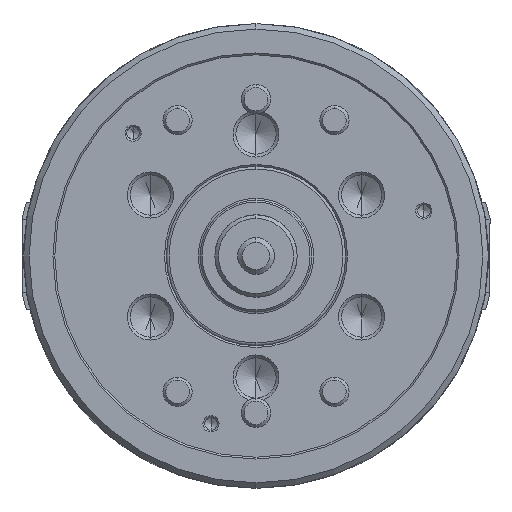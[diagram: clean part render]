
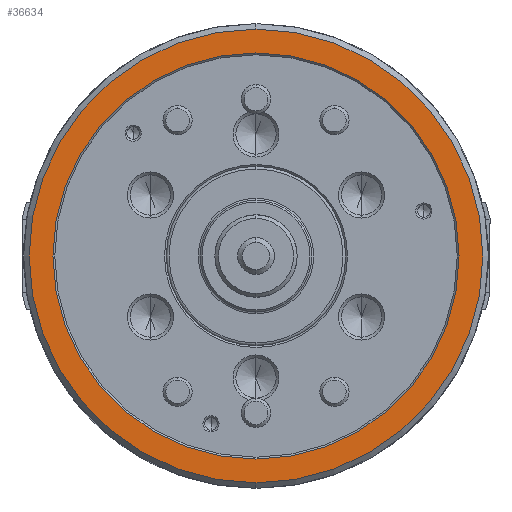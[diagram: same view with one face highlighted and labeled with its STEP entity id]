
A CAD part, left-side view. The second image highlights one B-rep face of the part: STEP entity #36634.
In plain terms, the highlighted planar face has unit normal (-1, 0, 0) as drawn and (0, 0, -1) by its records, which use the part's own axes.
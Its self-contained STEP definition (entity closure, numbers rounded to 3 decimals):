
#293 = AXIS2_PLACEMENT_3D ( 'NONE', #24187, #52948, #28295 ) ;
#1106 = AXIS2_PLACEMENT_3D ( 'NONE', #32037, #7354, #36166 ) ;
#2210 = CARTESIAN_POINT ( 'NONE',  ( -124., 0., -89. ) ) ;
#2486 = PLANE ( 'NONE',  #42544 ) ;
#2839 = CIRCLE ( 'NONE', #1106, 111. ) ;
#5541 = EDGE_CURVE ( 'NONE', #18608, #43657, #28475, .T. ) ;
#7354 = DIRECTION ( 'NONE',  ( 0., 0., 1. ) ) ;
#7914 = DIRECTION ( 'NONE',  ( 0., 0., 1. ) ) ;
#8253 = CIRCLE ( 'NONE', #38191, 124. ) ;
#10826 = DIRECTION ( 'NONE',  ( 0., 0., 1. ) ) ;
#11785 = EDGE_LOOP ( 'NONE', ( #23723, #32567 ) ) ;
#11818 = EDGE_CURVE ( 'NONE', #35084, #26194, #24074, .T. ) ;
#13246 = EDGE_LOOP ( 'NONE', ( #39476, #30580 ) ) ;
#18608 = VERTEX_POINT ( 'NONE', #33638 ) ;
#22909 = CARTESIAN_POINT ( 'NONE',  ( -111., 0., -89. ) ) ;
#23010 = AXIS2_PLACEMENT_3D ( 'NONE', #35068, #35007, #34901 ) ;
#23723 = ORIENTED_EDGE ( 'NONE', *, *, #11818, .T. ) ;
#24074 = CIRCLE ( 'NONE', #293, 111. ) ;
#24187 = CARTESIAN_POINT ( 'NONE',  ( 0., 0., -89. ) ) ;
#24795 = FACE_OUTER_BOUND ( 'NONE', #13246, .T. ) ;
#26194 = VERTEX_POINT ( 'NONE', #27210 ) ;
#27210 = CARTESIAN_POINT ( 'NONE',  ( 111., 0., -89. ) ) ;
#28295 = DIRECTION ( 'NONE',  ( 1., 0., 0. ) ) ;
#28475 = CIRCLE ( 'NONE', #23010, 124. ) ;
#30580 = ORIENTED_EDGE ( 'NONE', *, *, #31094, .F. ) ;
#31094 = EDGE_CURVE ( 'NONE', #43657, #18608, #8253, .T. ) ;
#32037 = CARTESIAN_POINT ( 'NONE',  ( 0., 0., -89. ) ) ;
#32567 = ORIENTED_EDGE ( 'NONE', *, *, #47665, .T. ) ;
#32575 = CARTESIAN_POINT ( 'NONE',  ( 0., 0., -89. ) ) ;
#33638 = CARTESIAN_POINT ( 'NONE',  ( 124., 0., -89. ) ) ;
#34901 = DIRECTION ( 'NONE',  ( 1., 0., 0. ) ) ;
#35007 = DIRECTION ( 'NONE',  ( 0., 0., 1. ) ) ;
#35068 = CARTESIAN_POINT ( 'NONE',  ( 0., 0., -89. ) ) ;
#35084 = VERTEX_POINT ( 'NONE', #22909 ) ;
#35466 = CARTESIAN_POINT ( 'NONE',  ( 0., -124., -89. ) ) ;
#36166 = DIRECTION ( 'NONE',  ( 1., 0., 0. ) ) ;
#36634 = ADVANCED_FACE ( 'NONE', ( #24795, #45311 ), #2486, .F. ) ;
#36718 = DIRECTION ( 'NONE',  ( 1., 0., 0. ) ) ;
#38191 = AXIS2_PLACEMENT_3D ( 'NONE', #32575, #7914, #36718 ) ;
#39476 = ORIENTED_EDGE ( 'NONE', *, *, #5541, .F. ) ;
#39575 = DIRECTION ( 'NONE',  ( 1., 0., 0. ) ) ;
#42544 = AXIS2_PLACEMENT_3D ( 'NONE', #35466, #10826, #39575 ) ;
#43657 = VERTEX_POINT ( 'NONE', #2210 ) ;
#45311 = FACE_BOUND ( 'NONE', #11785, .T. ) ;
#47665 = EDGE_CURVE ( 'NONE', #26194, #35084, #2839, .T. ) ;
#52948 = DIRECTION ( 'NONE',  ( 0., 0., 1. ) ) ;
